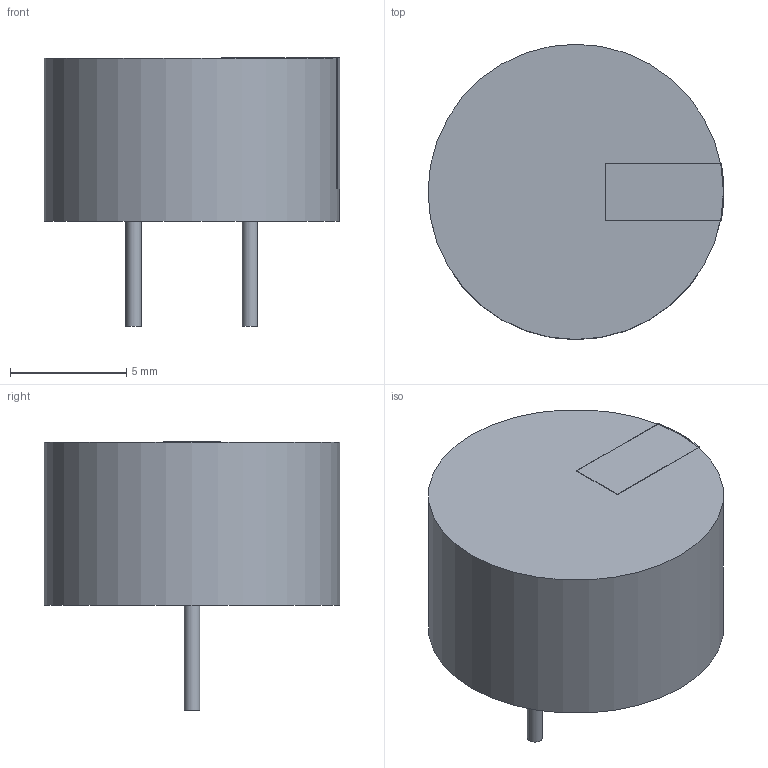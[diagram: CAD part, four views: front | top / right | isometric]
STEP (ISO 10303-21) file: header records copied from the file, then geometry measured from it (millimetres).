
FILE_DESCRIPTION(('STEP AP214'),'1');
FILE_NAME('XTAL_PS1240P02BT_TDK','2026-07-30T09:14:11',(''),(''),'','','');
FILE_SCHEMA(('AUTOMOTIVE_DESIGN'));
Length unit declared in the file: millimetre
Products named in the file (1): product
Bounding box: 12.72 x 12.7 x 11.55 mm (x, y, z)
Volume: 891.8 mm3; surface area: 606.9 mm2
Topology: 4 solids, 4 shells, 17 faces, 27 edges, 18 vertices
Faces by surface type: plane 12, cylinder 5
Full cylindrical faces by diameter (mm): 0.66 x2, 12.7 x1
Entity records: 552 total; most frequent: DIRECTION 76, CARTESIAN_POINT 48, ORIENTED_EDGE 48, AXIS2_PLACEMENT_3D 31, EDGE_CURVE 24, EDGE_LOOP 20, VERTEX_POINT 18, PRESENTATION_STYLE_ASSIGNMENT 17
